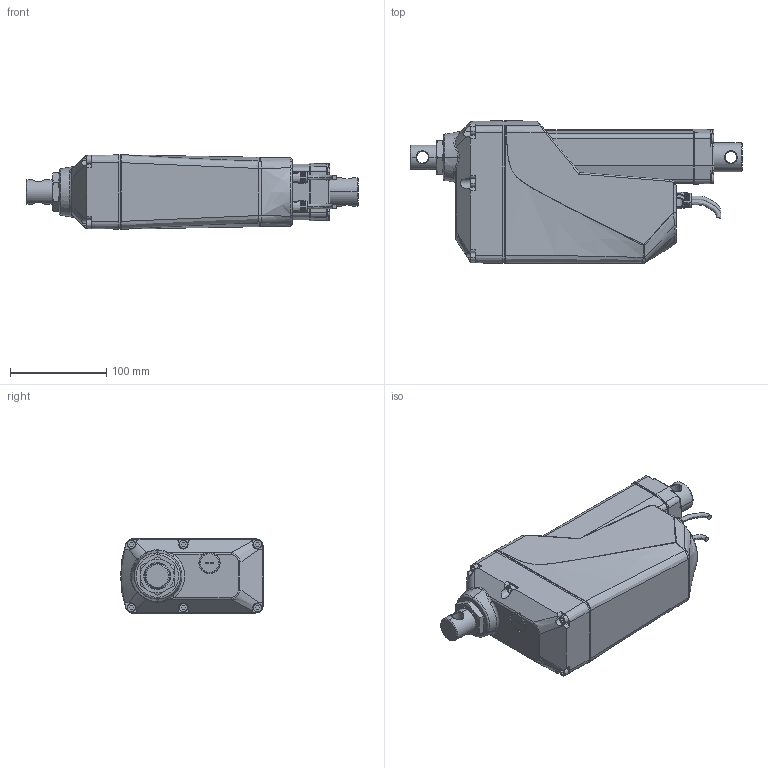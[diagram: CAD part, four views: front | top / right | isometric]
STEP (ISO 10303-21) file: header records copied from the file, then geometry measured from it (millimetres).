
FILE_DESCRIPTION((''),'2;1');
FILE_NAME('MK35_ASM','2021-07-22T',('hank'),(''),'PRO/ENGINEER BY PARAMETRIC TECHNOLOGY CORPORATION, 2016360','PRO/ENGINEER BY PARAMETRIC TECHNOLOGY CORPORATION, 2016360','');
FILE_SCHEMA(('CONFIG_CONTROL_DESIGN'));
Length unit declared in the file: millimetre
Products named in the file (7): GEARBOX; 87; 7-D; 7-COVER-TEST; TUBE; 91A-25; MK35_ASM
Assembly tree (9 placements, depth 2):
  MK35_ASM
    GEARBOX
    87
    7-D
    7-COVER-TEST
    TUBE
    91A-25  x4
Bounding box: 344.5 x 148 x 77 mm (x, y, z)
Volume: 2264421.5 mm3; surface area: 229883.5 mm2
Topology: 9 solids, 18 shells, 736 faces, 1785 edges, 1139 vertices
Faces by surface type: plane 366, cylinder 179, bspline 105, cone 40, torus 40, extrusion 4, sphere 2
Entity records: 31904 total; most frequent: CARTESIAN_POINT 16144, ORIENTED_EDGE 3402, DIRECTION 2936, EDGE_CURVE 1701, VERTEX_POINT 1085, AXIS2_PLACEMENT_3D 1058, VECTOR 820, LINE 816
